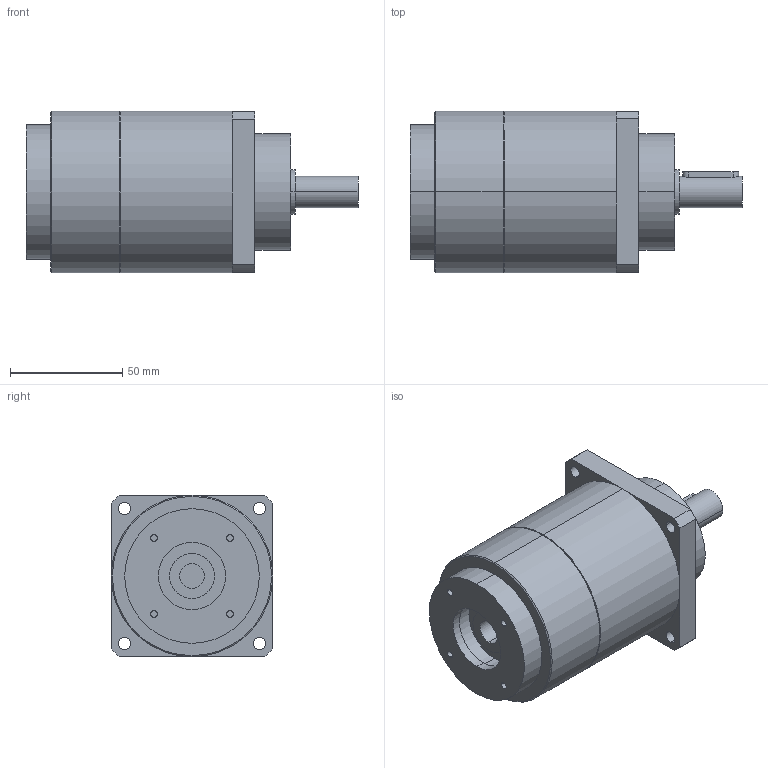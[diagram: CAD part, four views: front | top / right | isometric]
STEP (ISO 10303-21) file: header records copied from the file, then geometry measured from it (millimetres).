
FILE_DESCRIPTION(('CoCreate Modeling STEP Export'),'2;1');
FILE_NAME('GPT75_ig-9-12-16-20-25-28-35-40-50-70-100_14_B5T_11_P29.stp','2014-08-27T13:34:47',(''),(''),'CoCreate Modeling STEP processor for AP214 (Solid Model)','CoCreate Modeling 16.00C 25-Feb-2009 (C) Parametric Technology GmbH','');
FILE_SCHEMA(('AUTOMOTIVE_DESIGN { 1 0 10303 214 1 1 1 1 }'));
Length unit declared in the file: millimetre
Products named in the file (2): GPT75_ig-9-12-16-20-25-28-35-40-50-70-100_14_B5T_11_P29
Assembly tree (1 placements, depth 2):
  GPT75_ig-9-12-16-20-25-28-35-40-50-70-100_14_B5T_11_P29
    GPT75_ig-9-12-16-20-25-28-35-40-50-70-100_14_B5T_11_P29
Bounding box: 148 x 72 x 72 mm (x, y, z)
Volume: 439719.7 mm3; surface area: 41412.8 mm2
Topology: 1 solids, 1 shells, 75 faces, 177 edges, 118 vertices
Faces by surface type: cylinder 44, plane 27, cone 4
Entity records: 2271 total; most frequent: CARTESIAN_POINT 680, ORIENTED_EDGE 354, DIRECTION 278, EDGE_CURVE 177, VERTEX_POINT 118, AXIS2_PLACEMENT_3D 104, EDGE_LOOP 97, FACE_OUTER_BOUND 75
